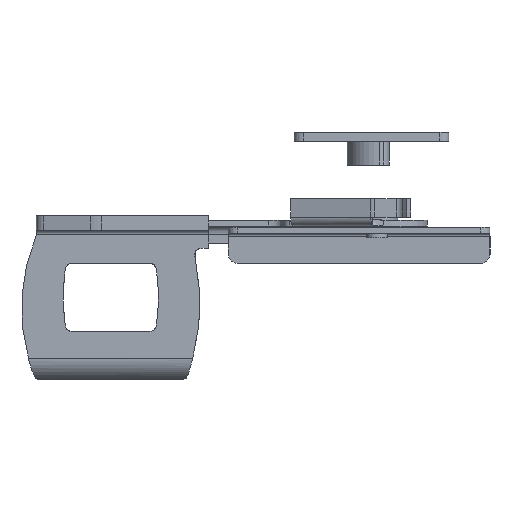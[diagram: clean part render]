
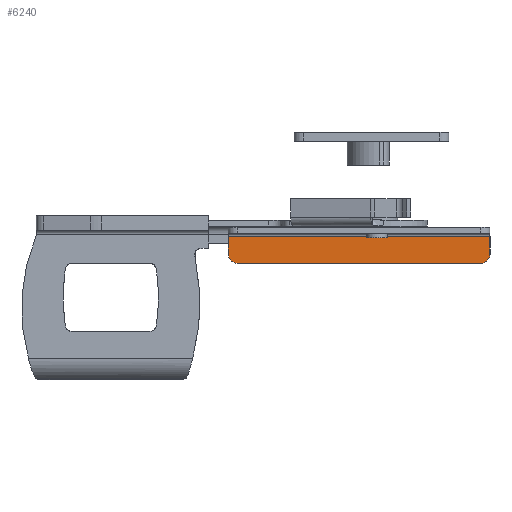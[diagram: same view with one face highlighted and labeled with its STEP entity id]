
A CAD part, front view. The second image highlights one B-rep face of the part: STEP entity #6240.
In plain terms, the highlighted planar face has unit normal (-0.002, -1, 0) as drawn and (0, 0, -1) by its records, which use the part's own axes.
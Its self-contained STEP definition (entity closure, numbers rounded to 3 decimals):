
#68 = CARTESIAN_POINT ( 'NONE',  ( 44., 0., -2. ) ) ;
#296 = DIRECTION ( 'NONE',  ( 0., 0., 1. ) ) ;
#505 = VECTOR ( 'NONE', #3795, 1000. ) ;
#736 = CARTESIAN_POINT ( 'NONE',  ( -44., 0., -2. ) ) ;
#843 = CIRCLE ( 'NONE', #1970, 3. ) ;
#943 = CARTESIAN_POINT ( 'NONE',  ( -41., -12., -2. ) ) ;
#1120 = EDGE_CURVE ( 'NONE', #4142, #3819, #6665, .T. ) ;
#1230 = CARTESIAN_POINT ( 'NONE',  ( -41., -9., -2. ) ) ;
#1478 = CIRCLE ( 'NONE', #9292, 3. ) ;
#1619 = EDGE_CURVE ( 'NONE', #3819, #7852, #843, .T. ) ;
#1855 = AXIS2_PLACEMENT_3D ( 'NONE', #7944, #296, #5062 ) ;
#1890 = LINE ( 'NONE', #2586, #2015 ) ;
#1970 = AXIS2_PLACEMENT_3D ( 'NONE', #1230, #4281, #3528 ) ;
#2000 = ORIENTED_EDGE ( 'NONE', *, *, #4358, .T. ) ;
#2015 = VECTOR ( 'NONE', #2646, 1000. ) ;
#2347 = CARTESIAN_POINT ( 'NONE',  ( 44., -9., -2. ) ) ;
#2354 = CARTESIAN_POINT ( 'NONE',  ( -44., -3., -2. ) ) ;
#2586 = CARTESIAN_POINT ( 'NONE',  ( 44., -3., -2. ) ) ;
#2646 = DIRECTION ( 'NONE',  ( -1., 0., 0. ) ) ;
#3030 = DIRECTION ( 'NONE',  ( 0., 0., -1. ) ) ;
#3528 = DIRECTION ( 'NONE',  ( 0., -1., 0. ) ) ;
#3795 = DIRECTION ( 'NONE',  ( 0., 1., 0. ) ) ;
#3819 = VERTEX_POINT ( 'NONE', #943 ) ;
#3950 = VERTEX_POINT ( 'NONE', #2354 ) ;
#4142 = VERTEX_POINT ( 'NONE', #8610 ) ;
#4281 = DIRECTION ( 'NONE',  ( 0., 0., -1. ) ) ;
#4358 = EDGE_CURVE ( 'NONE', #6017, #5028, #4730, .T. ) ;
#4528 = DIRECTION ( 'NONE',  ( 0., -1., 0. ) ) ;
#4709 = VECTOR ( 'NONE', #4774, 1000. ) ;
#4730 = LINE ( 'NONE', #68, #4709 ) ;
#4774 = DIRECTION ( 'NONE',  ( 0., -1., 0. ) ) ;
#4959 = ORIENTED_EDGE ( 'NONE', *, *, #1120, .T. ) ;
#5028 = VERTEX_POINT ( 'NONE', #2347 ) ;
#5062 = DIRECTION ( 'NONE',  ( 0., -1., 0. ) ) ;
#5068 = EDGE_CURVE ( 'NONE', #6017, #3950, #1890, .T. ) ;
#5281 = CARTESIAN_POINT ( 'NONE',  ( -44., -9., -2. ) ) ;
#5495 = EDGE_LOOP ( 'NONE', ( #2000, #7219, #4959, #7467, #8021, #9152 ) ) ;
#5917 = CARTESIAN_POINT ( 'NONE',  ( 0., -12., -2. ) ) ;
#6017 = VERTEX_POINT ( 'NONE', #7635 ) ;
#6240 = ADVANCED_FACE ( 'NONE', ( #9546 ), #8783, .F. ) ;
#6665 = LINE ( 'NONE', #5917, #6755 ) ;
#6755 = VECTOR ( 'NONE', #9736, 1000. ) ;
#6878 = CARTESIAN_POINT ( 'NONE',  ( 41., -9., -2. ) ) ;
#7219 = ORIENTED_EDGE ( 'NONE', *, *, #9798, .T. ) ;
#7467 = ORIENTED_EDGE ( 'NONE', *, *, #1619, .T. ) ;
#7635 = CARTESIAN_POINT ( 'NONE',  ( 44., -3., -2. ) ) ;
#7852 = VERTEX_POINT ( 'NONE', #5281 ) ;
#7944 = CARTESIAN_POINT ( 'NONE',  ( 0., 0., -2. ) ) ;
#8021 = ORIENTED_EDGE ( 'NONE', *, *, #8608, .T. ) ;
#8608 = EDGE_CURVE ( 'NONE', #7852, #3950, #8968, .T. ) ;
#8610 = CARTESIAN_POINT ( 'NONE',  ( 41., -12., -2. ) ) ;
#8783 = PLANE ( 'NONE',  #1855 ) ;
#8968 = LINE ( 'NONE', #736, #505 ) ;
#9152 = ORIENTED_EDGE ( 'NONE', *, *, #5068, .F. ) ;
#9292 = AXIS2_PLACEMENT_3D ( 'NONE', #6878, #3030, #4528 ) ;
#9546 = FACE_OUTER_BOUND ( 'NONE', #5495, .T. ) ;
#9736 = DIRECTION ( 'NONE',  ( -1., 0., 0. ) ) ;
#9798 = EDGE_CURVE ( 'NONE', #5028, #4142, #1478, .T. ) ;
